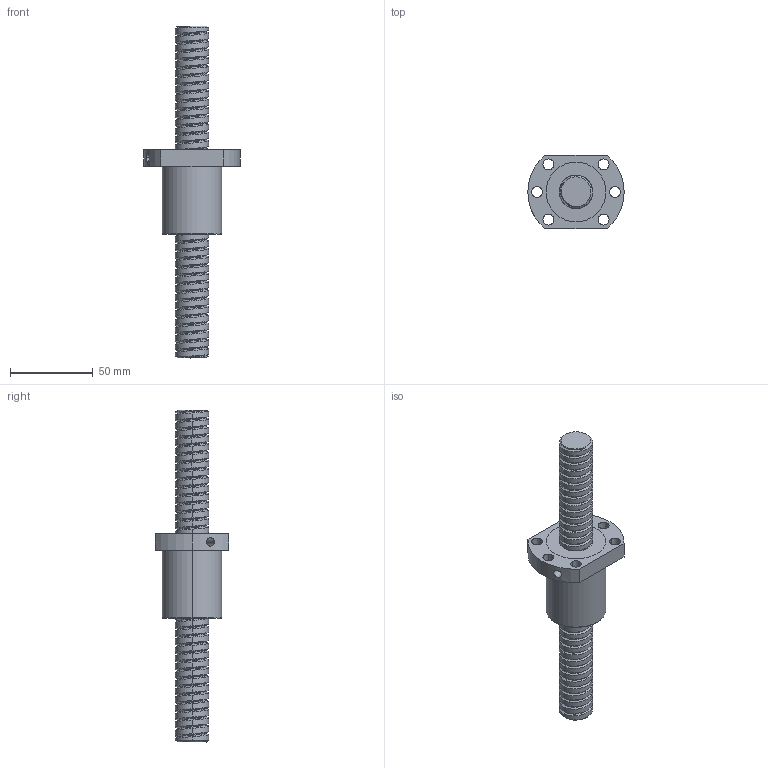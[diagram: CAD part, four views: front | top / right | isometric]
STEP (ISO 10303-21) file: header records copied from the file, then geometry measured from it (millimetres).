
FILE_DESCRIPTION (( 'STEP AP214' ), '1' );
FILE_NAME ('SFU2005-C-SFU2005.STEP', '2025-04-25T12:57:36', ( '' ), ( '' ), 'SwSTEP 2.0', 'SolidWorks 2019', '' );
FILE_SCHEMA (( 'AUTOMOTIVE_DESIGN' ));
Length unit declared in the file: millimetre
Products named in the file (3): SFU2005; SFU2005-C-SFU2005; C-SFU20
Assembly tree (2 placements, depth 2):
  SFU2005-C-SFU2005
    SFU2005
    C-SFU20
Bounding box: 58 x 44 x 200 mm (x, y, z)
Volume: 105852.4 mm3; surface area: 34101.8 mm2
Topology: 4 solids, 4 shells, 151 faces, 467 edges, 328 vertices
Faces by surface type: cylinder 127, plane 13, cone 6, bspline 3, torus 2
Entity records: 30386 total; most frequent: CARTESIAN_POINT 26461, ORIENTED_EDGE 934, DIRECTION 638, EDGE_CURVE 467, VERTEX_POINT 328, AXIS2_PLACEMENT_3D 242, EDGE_LOOP 175, LINE 154
